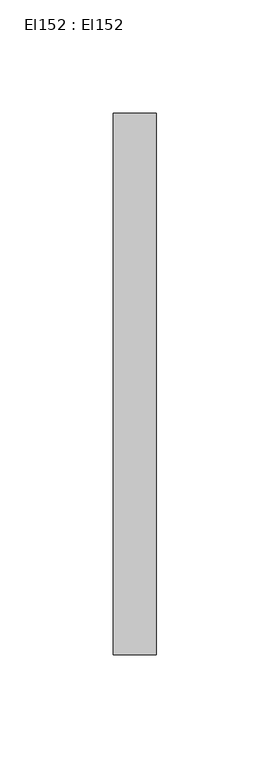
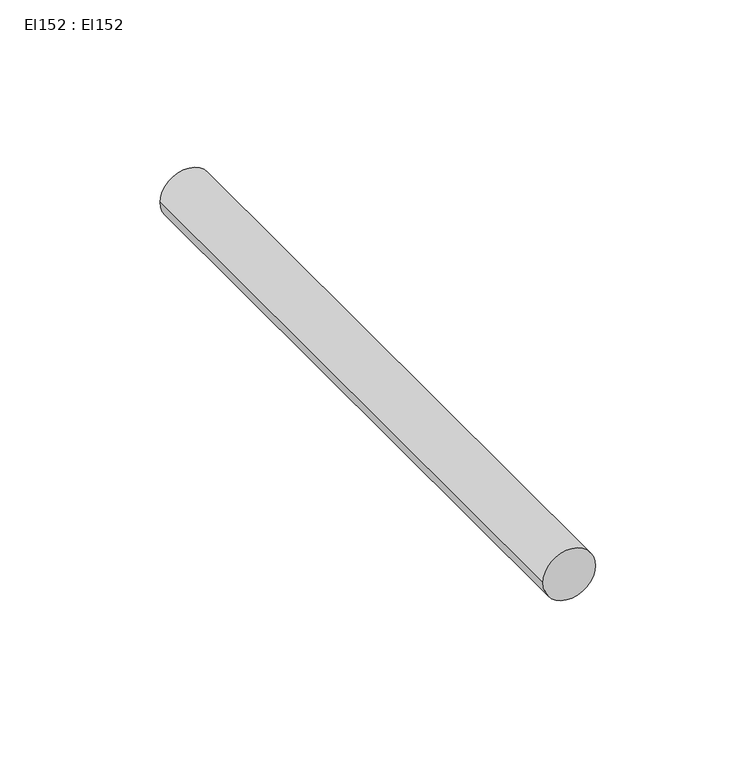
"""IFC4 building model written with IfcOpenShell, lengths in millimetres: cable carrier segment geometry, El152 : El152."""

from ifc_helpers import new_model, si_unit, point, frame, frame_2d, origin, place, context, project, spatial, circle_curve, trimmed, segment, composite_curve, outline, extrude, source, transform, mapped, element, save


def el152_el152_394c85cd(model_context):
    return source(origin(), model_context, "Body", "SweptSolid", [
        extrude(outline(composite_curve([segment(trimmed(circle_curve(frame_2d((300.0, 21030.0)), 9.5), [point((300.0, 21020.5))], [point((300.0, 21039.5))], False, "CARTESIAN"), True, "CONTINUOUS"), segment(trimmed(circle_curve(frame_2d((300.0, 21030.0)), 9.5), [point((300.0, 21039.5))], [point((300.0, 21020.5))], False, "CARTESIAN"), True, "CONTINUOUS")], self_intersect=False)), frame((0.0, 10337.675, 0.0), z_axis=(0.0, 1.0, 0.0), x_axis=(0.0, 0.0, 1.0)), (0.0, 0.0, 1.0), 239.05),
    ])


if __name__ == "__main__":
    model = new_model("IFC4")
    model_context = context("Model", 3, world=origin())
    ifc_project = project(units=[si_unit("LENGTHUNIT", "METRE", prefix="MILLI")], contexts=[model_context])
    site = spatial("IfcSite", under=ifc_project)
    building = spatial("IfcBuilding", under=site)
    placement = place(None, origin())
    el152_el152_shape = el152_el152_394c85cd(model_context)
    element("IfcCableCarrierSegment", 1, ObjectType="El152 : El152", at=placement, inside=building, context=model_context, shape_type="MappedRepresentation", body=[
        mapped(el152_el152_shape, transform((0.0, 0.0, 0.0), x_axis=(1.0, 0.0, 0.0), y_axis=(0.0, 1.0, 0.0), z_axis=(0.0, 0.0, 1.0))),
    ])
    save(model, "model.ifc")
